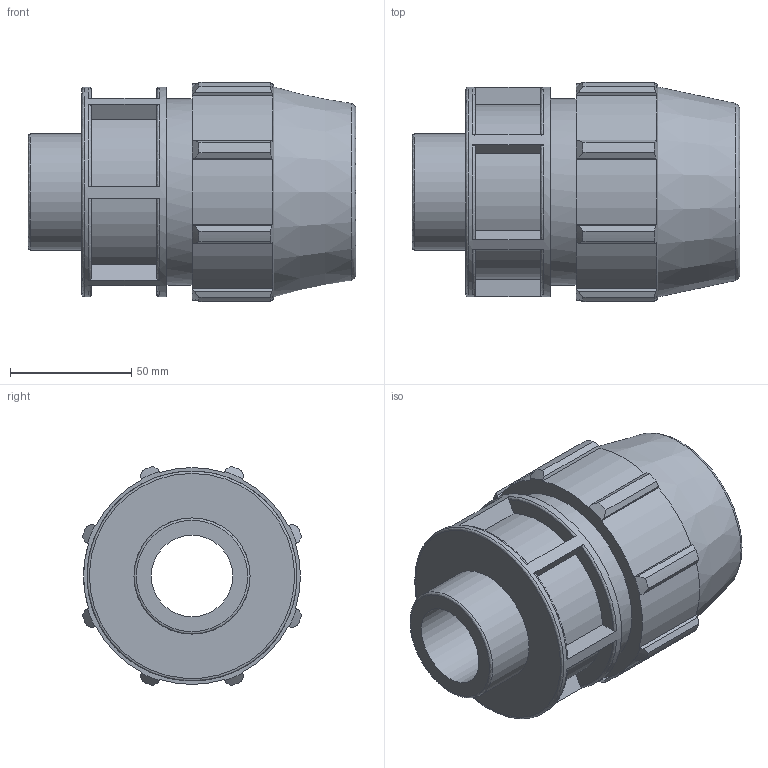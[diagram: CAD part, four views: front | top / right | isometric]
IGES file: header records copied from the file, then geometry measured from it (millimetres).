
Global section: file name: 0702M0T15015.ipt; native system: Autodesk Inventor 2019; preprocessor: unknown; author: KIM; date: 20210826.124445; units: inch
Bounding box: 134.87 x 90.34 x 90.34 mm (x, y, z)
Volume: 407345 mm3; surface area: 69960.6 mm2
Topology: 1 solids, 1 shells, 117 faces, 321 edges, 216 vertices
Faces by surface type: plane 63, cylinder 25, revolution 19, cone 10
Full cylindrical faces by diameter (mm): 47.803 x1, 76.81 x1, 86.411 x1
